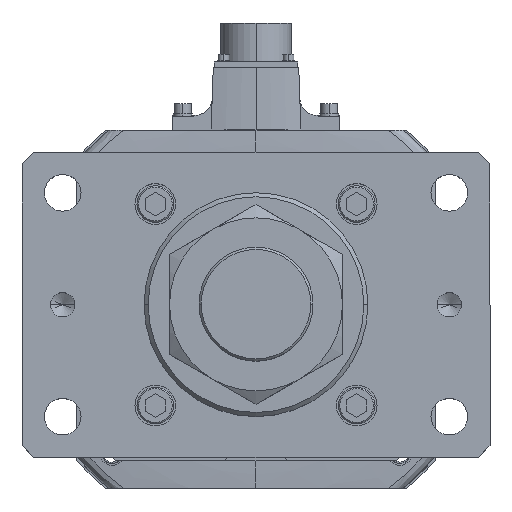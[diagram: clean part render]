
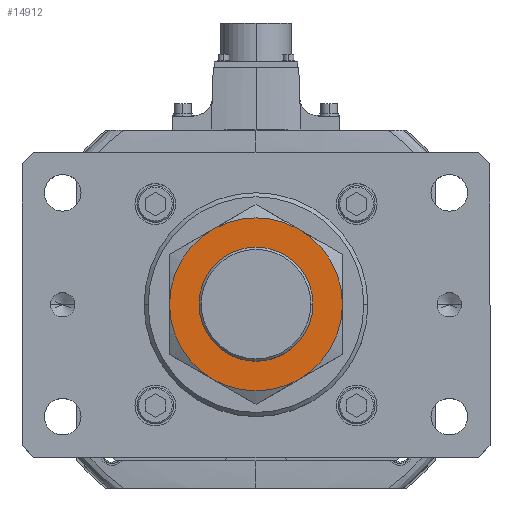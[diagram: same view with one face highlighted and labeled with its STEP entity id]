
A CAD part, top view. The second image highlights one B-rep face of the part: STEP entity #14912.
In plain terms, the highlighted planar face has unit normal (0, 0, 1).
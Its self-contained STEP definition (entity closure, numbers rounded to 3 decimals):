
#104 = CARTESIAN_POINT ( 'NONE',  ( -21.25, 36.806, 34. ) ) ;
#370 = CIRCLE ( 'NONE', #30883, 28. ) ;
#585 = VERTEX_POINT ( 'NONE', #44579 ) ;
#1392 = CIRCLE ( 'NONE', #53278, 42.5 ) ;
#1587 = DIRECTION ( 'NONE',  ( 1., 0., 0. ) ) ;
#5659 = ORIENTED_EDGE ( 'NONE', *, *, #12516, .F. ) ;
#5781 = EDGE_LOOP ( 'NONE', ( #5659, #17277, #9787, #43433, #30087, #30158 ) ) ;
#7430 = EDGE_CURVE ( 'NONE', #53343, #22402, #9592, .T. ) ;
#8771 = EDGE_LOOP ( 'NONE', ( #25751, #47849 ) ) ;
#9592 = CIRCLE ( 'NONE', #24851, 28. ) ;
#9787 = ORIENTED_EDGE ( 'NONE', *, *, #53334, .F. ) ;
#10356 = AXIS2_PLACEMENT_3D ( 'NONE', #49187, #10707, #15526 ) ;
#10445 = DIRECTION ( 'NONE',  ( 1., 0., 0. ) ) ;
#10707 = DIRECTION ( 'NONE',  ( 0., 0., 1. ) ) ;
#11627 = DIRECTION ( 'NONE',  ( 1., 0., 0. ) ) ;
#12516 = EDGE_CURVE ( 'NONE', #53410, #32744, #54281, .T. ) ;
#13502 = VERTEX_POINT ( 'NONE', #42583 ) ;
#13653 = CARTESIAN_POINT ( 'NONE',  ( 0., 0., 34. ) ) ;
#13839 = CARTESIAN_POINT ( 'NONE',  ( 0., 0., 34. ) ) ;
#14266 = CARTESIAN_POINT ( 'NONE',  ( 0., 0., 34. ) ) ;
#14912 = ADVANCED_FACE ( 'NONE', ( #33993, #50666 ), #36509, .T. ) ;
#15009 = AXIS2_PLACEMENT_3D ( 'NONE', #13839, #30555, #43559 ) ;
#15526 = DIRECTION ( 'NONE',  ( 1., 0., 0. ) ) ;
#16671 = DIRECTION ( 'NONE',  ( 1., 0., 0. ) ) ;
#17277 = ORIENTED_EDGE ( 'NONE', *, *, #48465, .F. ) ;
#20011 = AXIS2_PLACEMENT_3D ( 'NONE', #36525, #32629, #11627 ) ;
#20303 = DIRECTION ( 'NONE',  ( 0., 0., -1. ) ) ;
#20489 = DIRECTION ( 'NONE',  ( 1., 0., 0. ) ) ;
#20910 = AXIS2_PLACEMENT_3D ( 'NONE', #28675, #20303, #20489 ) ;
#22402 = VERTEX_POINT ( 'NONE', #35535 ) ;
#23492 = EDGE_CURVE ( 'NONE', #585, #44411, #24454, .T. ) ;
#23722 = CIRCLE ( 'NONE', #25638, 42.5 ) ;
#24454 = CIRCLE ( 'NONE', #35253, 42.5 ) ;
#24842 = EDGE_CURVE ( 'NONE', #32744, #13502, #33672, .T. ) ;
#24851 = AXIS2_PLACEMENT_3D ( 'NONE', #35516, #35869, #10445 ) ;
#25638 = AXIS2_PLACEMENT_3D ( 'NONE', #14266, #47568, #1587 ) ;
#25751 = ORIENTED_EDGE ( 'NONE', *, *, #38948, .F. ) ;
#25810 = CARTESIAN_POINT ( 'NONE',  ( 0., 0., 34. ) ) ;
#28675 = CARTESIAN_POINT ( 'NONE',  ( 0., 0., 34. ) ) ;
#30087 = ORIENTED_EDGE ( 'NONE', *, *, #35437, .F. ) ;
#30158 = ORIENTED_EDGE ( 'NONE', *, *, #24842, .F. ) ;
#30555 = DIRECTION ( 'NONE',  ( 0., 0., -1. ) ) ;
#30883 = AXIS2_PLACEMENT_3D ( 'NONE', #13653, #34826, #47843 ) ;
#32629 = DIRECTION ( 'NONE',  ( 0., 0., -1. ) ) ;
#32744 = VERTEX_POINT ( 'NONE', #40455 ) ;
#33672 = CIRCLE ( 'NONE', #15009, 42.5 ) ;
#33924 = CARTESIAN_POINT ( 'NONE',  ( 28., 0., 34. ) ) ;
#33993 = FACE_OUTER_BOUND ( 'NONE', #5781, .T. ) ;
#34826 = DIRECTION ( 'NONE',  ( 0., 0., 1. ) ) ;
#35253 = AXIS2_PLACEMENT_3D ( 'NONE', #25810, #38468, #39954 ) ;
#35437 = EDGE_CURVE ( 'NONE', #13502, #585, #54360, .T. ) ;
#35516 = CARTESIAN_POINT ( 'NONE',  ( 0., 0., 34. ) ) ;
#35535 = CARTESIAN_POINT ( 'NONE',  ( -28., 0., 34. ) ) ;
#35869 = DIRECTION ( 'NONE',  ( 0., 0., 1. ) ) ;
#36509 = PLANE ( 'NONE',  #10356 ) ;
#36525 = CARTESIAN_POINT ( 'NONE',  ( 0., 0., 34. ) ) ;
#37842 = CARTESIAN_POINT ( 'NONE',  ( 0., 0., 34. ) ) ;
#38468 = DIRECTION ( 'NONE',  ( 0., 0., -1. ) ) ;
#38948 = EDGE_CURVE ( 'NONE', #22402, #53343, #370, .T. ) ;
#39954 = DIRECTION ( 'NONE',  ( -1., 0., 0. ) ) ;
#40455 = CARTESIAN_POINT ( 'NONE',  ( 21.25, -36.806, 34. ) ) ;
#41985 = CARTESIAN_POINT ( 'NONE',  ( 21.25, 36.806, 34. ) ) ;
#42583 = CARTESIAN_POINT ( 'NONE',  ( -21.25, -36.806, 34. ) ) ;
#43253 = VERTEX_POINT ( 'NONE', #41985 ) ;
#43433 = ORIENTED_EDGE ( 'NONE', *, *, #23492, .F. ) ;
#43559 = DIRECTION ( 'NONE',  ( 1., 0., 0. ) ) ;
#44411 = VERTEX_POINT ( 'NONE', #104 ) ;
#44579 = CARTESIAN_POINT ( 'NONE',  ( -42.5, 0., 34. ) ) ;
#47568 = DIRECTION ( 'NONE',  ( 0., 0., -1. ) ) ;
#47843 = DIRECTION ( 'NONE',  ( 1., 0., 0. ) ) ;
#47849 = ORIENTED_EDGE ( 'NONE', *, *, #7430, .F. ) ;
#48465 = EDGE_CURVE ( 'NONE', #43253, #53410, #23722, .T. ) ;
#49187 = CARTESIAN_POINT ( 'NONE',  ( 0., 0., 34. ) ) ;
#50666 = FACE_BOUND ( 'NONE', #8771, .T. ) ;
#50876 = DIRECTION ( 'NONE',  ( 0., 0., -1. ) ) ;
#51231 = CARTESIAN_POINT ( 'NONE',  ( 42.5, 0., 34. ) ) ;
#53278 = AXIS2_PLACEMENT_3D ( 'NONE', #37842, #50876, #16671 ) ;
#53334 = EDGE_CURVE ( 'NONE', #44411, #43253, #1392, .T. ) ;
#53343 = VERTEX_POINT ( 'NONE', #33924 ) ;
#53410 = VERTEX_POINT ( 'NONE', #51231 ) ;
#54281 = CIRCLE ( 'NONE', #20910, 42.5 ) ;
#54360 = CIRCLE ( 'NONE', #20011, 42.5 ) ;
